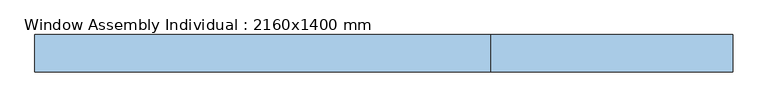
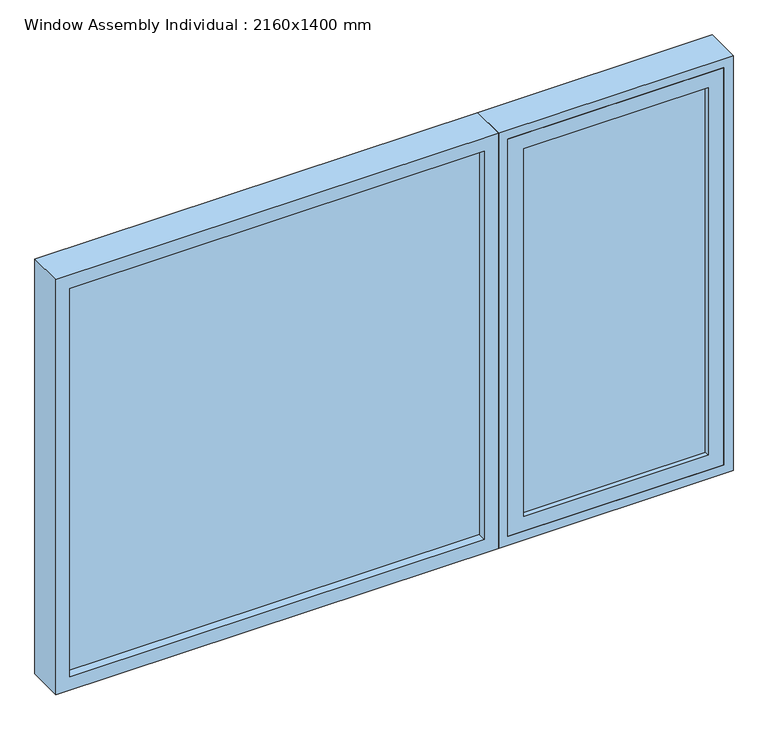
"""IFC4 building model written with IfcOpenShell, lengths in millimetres: window geometry, Window Assembly Individual : 2160x1400 mm."""

from ifc_helpers import new_model, si_unit, frame, origin, place, context, project, spatial, polyline, outline, extrude, faceted_brep, source, transform, mapped, element, save


def window_assembly_individual_2160x1400_mm_0ca40763(model_context):
    return source(origin(), model_context, "Body", "SolidModel", [
        extrude(outline(polyline([(2170.0, 362.0), (830.0, 362.0), (830.0, 1050.0), (2170.0, 1050.0), (2170.0, 362.0)]), holes=[polyline([(880.0, 412.0), (2120.0, 412.0), (2120.0, 1000.0), (880.0, 1000.0), (880.0, 412.0)])]), frame((0.0, -190.0, 0.0), z_axis=(0.0, 1.0, 0.0), x_axis=(0.0, 0.0, 1.0)), (0.0, 0.0, 1.0), 50.0),
        extrude(outline(polyline([(1000.0, -155.0), (1000.0, -175.0), (412.0, -175.0), (412.0, -155.0), (1000.0, -155.0)])), frame((0.0, 0.0, 880.0), z_axis=(0.0, 0.0, 1.0), x_axis=(1.0, 0.0, 0.0)), (0.0, 0.0, 1.0), 1240.0),
        faceted_brep([(1035.0, -75.0, 2155.0), (1035.0, -75.0, 845.0), (1035.0, -140.0, 845.0), (1035.0, -140.0, 2155.0), (1050.0, -140.0, 830.0), (1050.0, -140.0, 2170.0), (362.0, -140.0, 2170.0), (362.0, -140.0, 830.0), (377.0, -140.0, 845.0), (377.0, -140.0, 2155.0), (377.0, -75.0, 845.0), (1080.0, -75.0, 2200.0), (1080.0, -75.0, 800.0), (332.0, -75.0, 800.0), (332.0, -75.0, 2200.0), (377.0, -75.0, 2155.0), (1080.0, -190.0, 2200.0), (1080.0, -190.0, 800.0), (332.0, -190.0, 800.0), (332.0, -190.0, 2200.0), (1050.0, -190.0, 2170.0), (1050.0, -190.0, 830.0), (362.0, -190.0, 830.0), (362.0, -190.0, 2170.0)], [[[0, 1, 2, 3]], [[4, 5, 6, 7], [3, 2, 8, 9]], [[1, 10, 8, 2]], [[11, 12, 13, 14], [1, 0, 15, 10]], [[16, 17, 12, 11]], [[17, 18, 13, 12]], [[17, 16, 19, 18], [20, 21, 22, 23]], [[10, 15, 9, 8]], [[18, 19, 14, 13]], [[7, 6, 23, 22]], [[4, 7, 22, 21]], [[5, 4, 21, 20]], [[15, 0, 3, 9]], [[19, 16, 11, 14]], [[6, 5, 20, 23]]]),
        extrude(outline(polyline([(287.0, -140.0), (287.0, -162.0), (-1035.0, -162.0), (-1035.0, -140.0), (287.0, -140.0)])), frame((0.0, 0.0, 845.0), z_axis=(0.0, 0.0, 1.0), x_axis=(1.0, 0.0, 0.0)), (0.0, 0.0, 1.0), 1310.0),
        extrude(outline(polyline([(800.0, 332.0), (2200.0, 332.0), (2200.0, -1080.0), (800.0, -1080.0), (800.0, 332.0)]), holes=[polyline([(2155.0, 287.0), (845.0, 287.0), (845.0, -1035.0), (2155.0, -1035.0), (2155.0, 287.0)])]), frame((0.0, -190.0, 0.0), z_axis=(0.0, 1.0, 0.0), x_axis=(0.0, 0.0, 1.0)), (0.0, 0.0, 1.0), 115.0),
    ])


if __name__ == "__main__":
    model = new_model("IFC4")
    model_context = context("Model", 3, world=origin())
    ifc_project = project(units=[si_unit("LENGTHUNIT", "METRE", prefix="MILLI")], contexts=[model_context])
    site = spatial("IfcSite", under=ifc_project)
    building = spatial("IfcBuilding", under=site)
    placement = place(None, origin())
    window_assembly_individual_2160x1400_mm_shape = window_assembly_individual_2160x1400_mm_0ca40763(model_context)
    element("IfcWindow", 1, ObjectType="Window Assembly Individual : 2160x1400 mm", at=placement, inside=building, context=model_context, shape_type="MappedRepresentation", body=[
        mapped(window_assembly_individual_2160x1400_mm_shape, transform((0.0, 0.0, 0.0), x_axis=(1.0, 0.0, 0.0), y_axis=(0.0, 1.0, 0.0), z_axis=(0.0, 0.0, 1.0))),
    ])
    save(model, "model.ifc")
